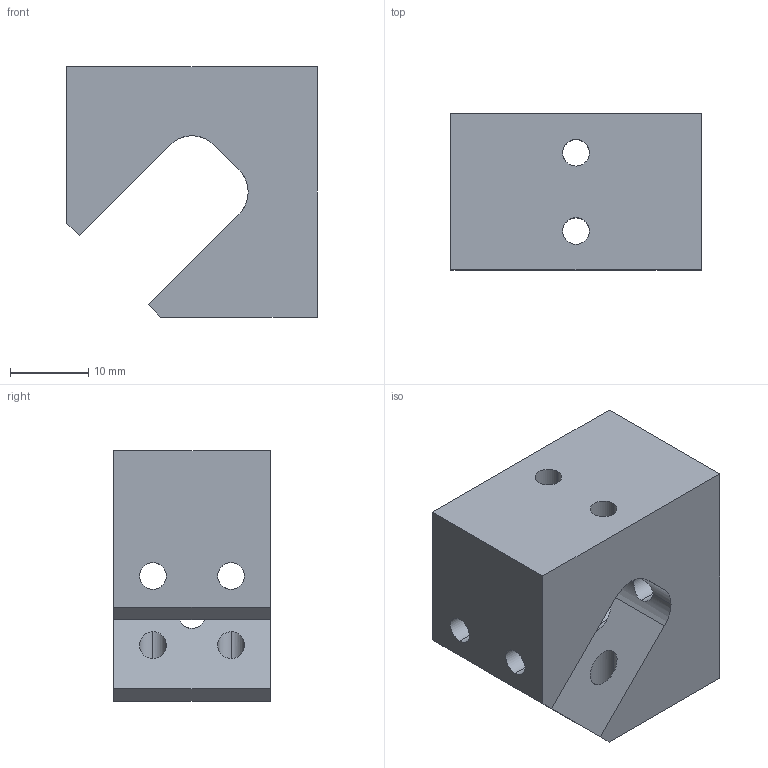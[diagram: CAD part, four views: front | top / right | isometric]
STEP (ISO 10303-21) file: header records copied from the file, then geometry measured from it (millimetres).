
FILE_DESCRIPTION((''),'2;1');
FILE_NAME('15300481_MB45.stp','2008-01-22T12:06:20',(''),(''),'Mechanical Desktop.R8.0.24.0','Mechanical Desktop.R8.0.24.0',', , ');
FILE_SCHEMA(('CONFIG_CONTROL_DESIGN'));
Length unit declared in the file: millimetre
Products named in the file (11): ZEICHNUNG2; ZEICHNG2; KLAMMER; 04113209; STATIV_ZBAU; GRUNDPLATTE; SPANNGELENK; KLEMMHEBEL; NUTSCHEIBE; SCHEIBE; STATIVSTANGE
Assembly tree (2 placements, depth 2):
  ZEICHNUNG2
    ZEICHNG2
    KLAMMER
  04113209
  STATIV_ZBAU
  GRUNDPLATTE
  SPANNGELENK
Bounding box: 32 x 20 x 32 mm (x, y, z)
Volume: 13264.3 mm3; surface area: 5323.5 mm2
Topology: 1 solids, 1 shells, 34 faces, 105 edges, 70 vertices
Faces by surface type: cylinder 23, plane 11
Entity records: 1793 total; most frequent: CARTESIAN_POINT 504, ORIENTED_EDGE 210, DIRECTION 207, EDGE_CURVE 105, AXIS2_PLACEMENT_3D 77, VERTEX_POINT 70, VECTOR 53, LINE 53
